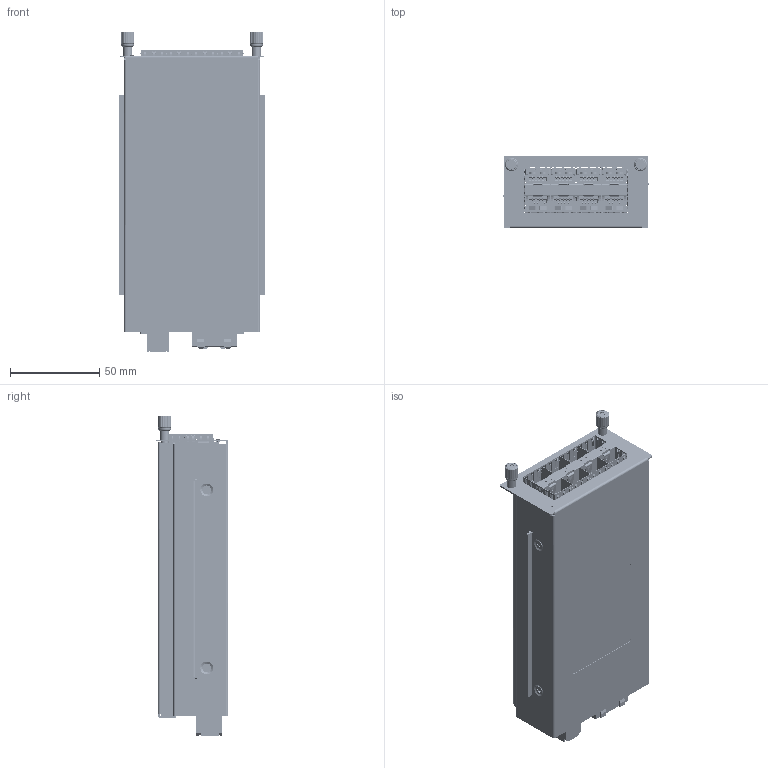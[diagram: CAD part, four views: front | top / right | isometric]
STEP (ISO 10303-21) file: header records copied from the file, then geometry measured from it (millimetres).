
FILE_DESCRIPTION((''),'2;1');
FILE_NAME('999','2026-05-07T16:16:05',('StanJH_Cheng'),('PTC'),'CREO PARAMETRIC BY PTC INC, 2023294','CREO PARAMETRIC BY PTC INC, 2023294','');
FILE_SCHEMA(('AUTOMOTIVE_DESIGN { 1 0 10303 214 1 1 1 1 }'));
Products named in the file (1): 999
Bounding box: 82 x 40.5 x 179.5 mm (x, y, z)
Volume: 19939.2 mm3; surface area: 174789.6 mm2
Topology: 7 solids, 141 shells, 27819 faces, 82980 edges, 53756 vertices
Faces by surface type: plane 19297, cylinder 7692, bspline 250, cone 228, torus 156, revolution 100, extrusion 96
Entity records: 947266 total; most frequent: CARTESIAN_POINT 188674, ORIENTED_EDGE 162351, DIRECTION 147989, EDGE_CURVE 82968, VECTOR 65460, LINE 65364, VERTEX_POINT 53756, AXIS2_PLACEMENT_3D 41213
